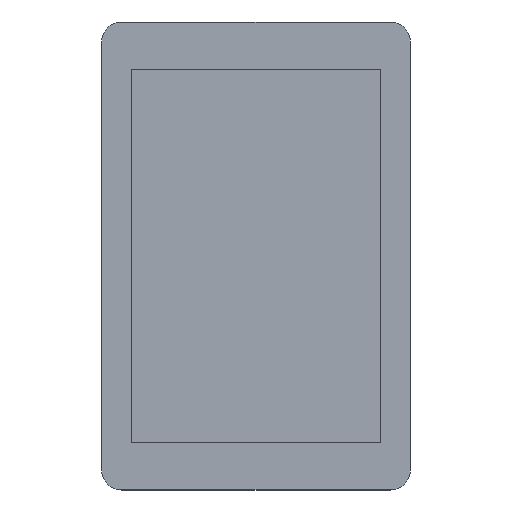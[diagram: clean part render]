
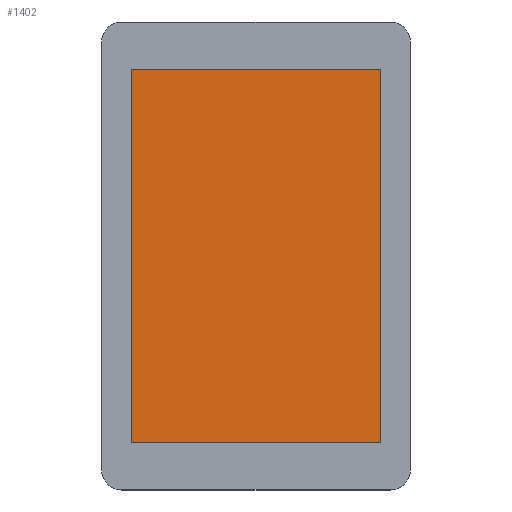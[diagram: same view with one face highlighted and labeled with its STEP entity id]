
A CAD part, top view. The second image highlights one B-rep face of the part: STEP entity #1402.
In plain terms, the highlighted planar face has unit normal (0, 0, 1).
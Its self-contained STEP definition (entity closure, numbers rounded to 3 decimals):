
#272=DIRECTION('',(1.,0.,0.));
#273=VECTOR('',#272,49.36);
#274=CARTESIAN_POINT('',(-24.68,36.92,0.75));
#275=LINE('',#274,#273);
#286=DIRECTION('',(0.,-1.,0.));
#287=VECTOR('',#286,73.84);
#288=CARTESIAN_POINT('',(24.68,36.92,0.75));
#289=LINE('',#288,#287);
#300=DIRECTION('',(-1.,0.,0.));
#301=VECTOR('',#300,49.36);
#302=CARTESIAN_POINT('',(24.68,-36.92,0.75));
#303=LINE('',#302,#301);
#314=DIRECTION('',(0.,1.,0.));
#315=VECTOR('',#314,73.84);
#316=CARTESIAN_POINT('',(-24.68,-36.92,0.75));
#317=LINE('',#316,#315);
#1049=CARTESIAN_POINT('',(-24.68,36.92,0.75));
#1050=CARTESIAN_POINT('',(24.68,36.92,0.75));
#1051=VERTEX_POINT('',#1049);
#1052=VERTEX_POINT('',#1050);
#1053=CARTESIAN_POINT('',(24.68,-36.92,0.75));
#1054=VERTEX_POINT('',#1053);
#1055=CARTESIAN_POINT('',(-24.68,-36.92,0.75));
#1056=VERTEX_POINT('',#1055);
#1388=CARTESIAN_POINT('',(0.,0.,0.75));
#1389=DIRECTION('',(0.,0.,1.));
#1390=DIRECTION('',(1.,0.,0.));
#1391=AXIS2_PLACEMENT_3D('',#1388,#1389,#1390);
#1392=PLANE('',#1391);
#1393=ORIENTED_EDGE('',*,*,#1378,.T.);
#1395=ORIENTED_EDGE('',*,*,#1394,.T.);
#1397=ORIENTED_EDGE('',*,*,#1396,.T.);
#1399=ORIENTED_EDGE('',*,*,#1398,.T.);
#1400=EDGE_LOOP('',(#1393,#1395,#1397,#1399));
#1401=FACE_OUTER_BOUND('',#1400,.F.);
#1402=ADVANCED_FACE('',(#1401),#1392,.T.);
#1378=EDGE_CURVE('',#1051,#1052,#275,.T.);
#1394=EDGE_CURVE('',#1052,#1054,#289,.T.);
#1396=EDGE_CURVE('',#1054,#1056,#303,.T.);
#1398=EDGE_CURVE('',#1056,#1051,#317,.T.);
